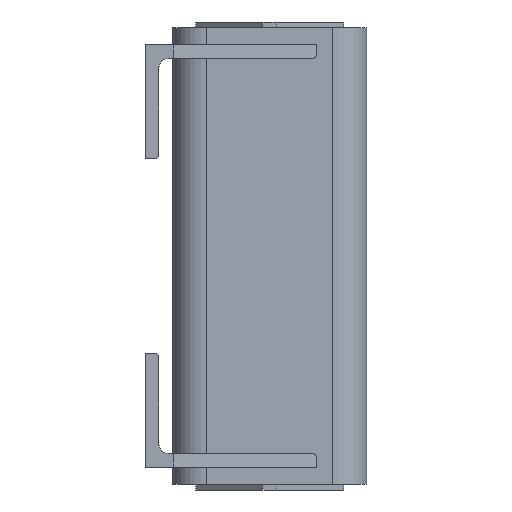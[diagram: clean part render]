
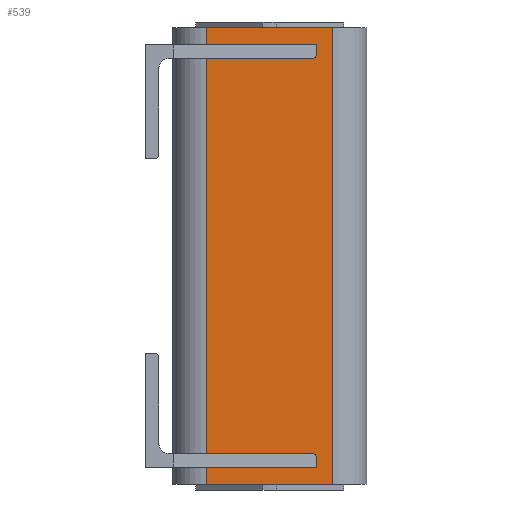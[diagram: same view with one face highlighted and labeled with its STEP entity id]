
A CAD part, front view. The second image highlights one B-rep face of the part: STEP entity #539.
In plain terms, the highlighted planar face has unit normal (0, -1, 0).
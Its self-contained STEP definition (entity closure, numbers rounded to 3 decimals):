
#481=CARTESIAN_POINT('',(55.,-85.,400.0));
#482=VERTEX_POINT('',#481);
#490=CARTESIAN_POINT('',(55.,-85.,0.0));
#491=VERTEX_POINT('',#490);
#492=CARTESIAN_POINT('',(55.,-85.,0.0));
#493=DIRECTION('',(0.0,0.0,1.0));
#494=VECTOR('',#493,400.0);
#495=LINE('',#492,#494);
#496=EDGE_CURVE('',#491,#482,#495,.T.);
#509=CARTESIAN_POINT('',(55.,-85.,0.0));
#510=DIRECTION('',(0.0,-1.0,0.0));
#511=DIRECTION('',(0.0,0.0,-1.0));
#512=AXIS2_PLACEMENT_3D('',#509,#510,#511);
#513=PLANE('',#512);
#514=CARTESIAN_POINT('',(-55.,-85.,400.0));
#515=VERTEX_POINT('',#514);
#516=CARTESIAN_POINT('',(55.,-85.,400.0));
#517=DIRECTION('',(-1.0,0.0,0.0));
#518=VECTOR('',#517,110.);
#519=LINE('',#516,#518);
#520=EDGE_CURVE('',#482,#515,#519,.T.);
#521=ORIENTED_EDGE('',*,*,#520,.T.);
#522=CARTESIAN_POINT('',(-55.,-85.,0.0));
#523=VERTEX_POINT('',#522);
#524=CARTESIAN_POINT('',(-55.,-85.,0.0));
#525=DIRECTION('',(0.0,0.0,1.0));
#526=VECTOR('',#525,400.0);
#527=LINE('',#524,#526);
#528=EDGE_CURVE('',#523,#515,#527,.T.);
#529=ORIENTED_EDGE('',*,*,#528,.F.);
#530=CARTESIAN_POINT('',(-55.,-85.,0.0));
#531=DIRECTION('',(1.0,0.0,0.0));
#532=VECTOR('',#531,110.);
#533=LINE('',#530,#532);
#534=EDGE_CURVE('',#523,#491,#533,.T.);
#535=ORIENTED_EDGE('',*,*,#534,.T.);
#536=ORIENTED_EDGE('',*,*,#496,.T.);
#537=EDGE_LOOP('',(#521,#529,#535,#536));
#538=FACE_OUTER_BOUND('',#537,.T.);
#539=ADVANCED_FACE('',(#538),#513,.T.);
